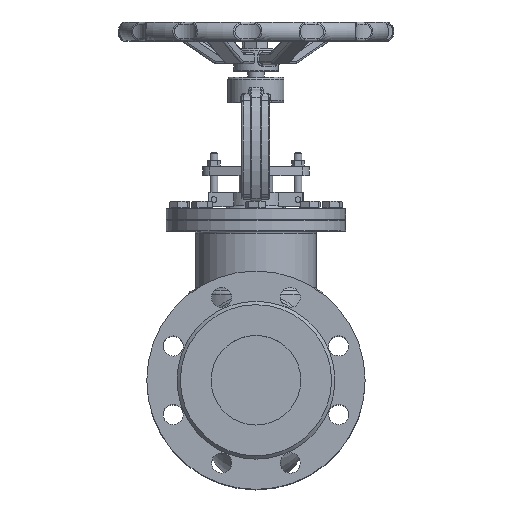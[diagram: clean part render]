
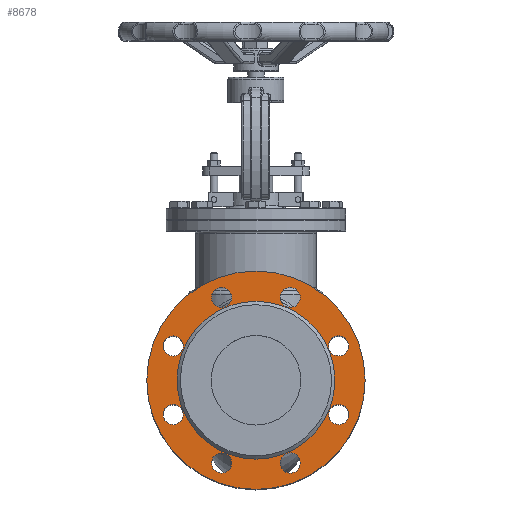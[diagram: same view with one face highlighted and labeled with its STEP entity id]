
A CAD part, top view. The second image highlights one B-rep face of the part: STEP entity #8678.
In plain terms, the highlighted planar face has unit normal (0, 0, 1).
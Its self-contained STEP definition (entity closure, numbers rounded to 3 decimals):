
#8678=ADVANCED_FACE('',(#19119,#19121,#19123,#19125,#19127,#19129,#19131,#19133,
#19135,#19137),#19139,.F.);
#19119=FACE_BOUND('',#19120,.T.);
#19120=EDGE_LOOP('',(#26276));
#19121=FACE_BOUND('',#19122,.T.);
#19122=EDGE_LOOP('',(#26277));
#19123=FACE_BOUND('',#19124,.T.);
#19124=EDGE_LOOP('',(#26278));
#19125=FACE_BOUND('',#19126,.T.);
#19126=EDGE_LOOP('',(#26279));
#19127=FACE_BOUND('',#19128,.T.);
#19128=EDGE_LOOP('',(#26280));
#19129=FACE_BOUND('',#19130,.T.);
#19130=EDGE_LOOP('',(#26281));
#19131=FACE_BOUND('',#19132,.T.);
#19132=EDGE_LOOP('',(#26282));
#19133=FACE_BOUND('',#19134,.T.);
#19134=EDGE_LOOP('',(#26283));
#19135=FACE_BOUND('',#19136,.T.);
#19136=EDGE_LOOP('',(#26284));
#19137=FACE_BOUND('',#19138,.T.);
#19138=EDGE_LOOP('',(#26285));
#19139=PLANE('',#19140);
#19140=AXIS2_PLACEMENT_3D('',#19141,#19142,#19143);
#19141=CARTESIAN_POINT('',(0.,0.,152.));
#19142=DIRECTION('',(0.,0.,-1.));
#19143=DIRECTION('',(0.,1.,0.));
#26276=ORIENTED_EDGE('',*,*,#29315,.T.);
#26277=ORIENTED_EDGE('',*,*,#29316,.T.);
#26278=ORIENTED_EDGE('',*,*,#29317,.T.);
#26279=ORIENTED_EDGE('',*,*,#29318,.T.);
#26280=ORIENTED_EDGE('',*,*,#29319,.T.);
#26281=ORIENTED_EDGE('',*,*,#29592,.F.);
#26282=ORIENTED_EDGE('',*,*,#29320,.T.);
#26283=ORIENTED_EDGE('',*,*,#29321,.T.);
#26284=ORIENTED_EDGE('',*,*,#29322,.T.);
#26285=ORIENTED_EDGE('',*,*,#29323,.T.);
#29315=EDGE_CURVE('',#33354,#33354,#33355,.T.);
#29316=EDGE_CURVE('',#33356,#33356,#33357,.T.);
#29317=EDGE_CURVE('',#33358,#33358,#33359,.T.);
#29318=EDGE_CURVE('',#33360,#33360,#33361,.T.);
#29319=EDGE_CURVE('',#33362,#33362,#33363,.T.);
#29320=EDGE_CURVE('',#33364,#33364,#33365,.T.);
#29321=EDGE_CURVE('',#33366,#33366,#33367,.T.);
#29322=EDGE_CURVE('',#33368,#33368,#33369,.T.);
#29323=EDGE_CURVE('',#33370,#33370,#33371,.T.);
#29592=EDGE_CURVE('',#33808,#33808,#33809,.T.);
#33354=VERTEX_POINT('',#62139);
#33355=CIRCLE('',#62140,97.5);
#33356=VERTEX_POINT('',#62144);
#33357=CIRCLE('',#62145,9.);
#33358=VERTEX_POINT('',#62149);
#33359=CIRCLE('',#62150,9.);
#33360=VERTEX_POINT('',#62154);
#33361=CIRCLE('',#62155,9.);
#33362=VERTEX_POINT('',#62159);
#33363=CIRCLE('',#62160,9.);
#33364=VERTEX_POINT('',#62164);
#33365=CIRCLE('',#62165,9.);
#33366=VERTEX_POINT('',#62169);
#33367=CIRCLE('',#62170,9.);
#33368=VERTEX_POINT('',#62174);
#33369=CIRCLE('',#62175,9.);
#33370=VERTEX_POINT('',#62179);
#33371=CIRCLE('',#62180,9.);
#33808=VERTEX_POINT('',#64710);
#33809=CIRCLE('',#64711,70.5);
#62139=CARTESIAN_POINT('',(0.,97.5,152.));
#62140=AXIS2_PLACEMENT_3D('',#62141,#62142,#62143);
#62141=CARTESIAN_POINT('',(0.,0.,152.));
#62142=DIRECTION('',(0.,0.,1.));
#62143=DIRECTION('',(0.,1.,0.));
#62144=CARTESIAN_POINT('',(67.546,36.979,152.));
#62145=AXIS2_PLACEMENT_3D('',#62146,#62147,#62148);
#62146=CARTESIAN_POINT('',(73.91,30.615,152.));
#62147=DIRECTION('',(0.,0.,-1.));
#62148=DIRECTION('',(-0.707,0.707,0.));
#62149=CARTESIAN_POINT('',(36.979,-67.546,152.));
#62150=AXIS2_PLACEMENT_3D('',#62151,#62152,#62153);
#62151=CARTESIAN_POINT('',(30.615,-73.91,152.));
#62152=DIRECTION('',(0.,0.,-1.));
#62153=DIRECTION('',(0.707,0.707,0.));
#62154=CARTESIAN_POINT('',(-67.546,-36.979,152.));
#62155=AXIS2_PLACEMENT_3D('',#62156,#62157,#62158);
#62156=CARTESIAN_POINT('',(-73.91,-30.615,152.));
#62157=DIRECTION('',(0.,0.,-1.));
#62158=DIRECTION('',(0.707,-0.707,0.));
#62159=CARTESIAN_POINT('',(-36.979,67.546,152.));
#62160=AXIS2_PLACEMENT_3D('',#62161,#62162,#62163);
#62161=CARTESIAN_POINT('',(-30.615,73.91,152.));
#62162=DIRECTION('',(0.,0.,-1.));
#62163=DIRECTION('',(-0.707,-0.707,0.));
#62164=CARTESIAN_POINT('',(21.615,73.91,152.));
#62165=AXIS2_PLACEMENT_3D('',#62166,#62167,#62168);
#62166=CARTESIAN_POINT('',(30.615,73.91,152.));
#62167=DIRECTION('',(0.,0.,-1.));
#62168=DIRECTION('',(-1.,0.,0.));
#62169=CARTESIAN_POINT('',(-73.91,21.615,152.));
#62170=AXIS2_PLACEMENT_3D('',#62171,#62172,#62173);
#62171=CARTESIAN_POINT('',(-73.91,30.615,152.));
#62172=DIRECTION('',(0.,0.,-1.));
#62173=DIRECTION('',(0.,-1.,0.));
#62174=CARTESIAN_POINT('',(-21.615,-73.91,152.));
#62175=AXIS2_PLACEMENT_3D('',#62176,#62177,#62178);
#62176=CARTESIAN_POINT('',(-30.615,-73.91,152.));
#62177=DIRECTION('',(0.,0.,-1.));
#62178=DIRECTION('',(1.,0.,0.));
#62179=CARTESIAN_POINT('',(73.91,-21.615,152.));
#62180=AXIS2_PLACEMENT_3D('',#62181,#62182,#62183);
#62181=CARTESIAN_POINT('',(73.91,-30.615,152.));
#62182=DIRECTION('',(0.,0.,-1.));
#62183=DIRECTION('',(0.,1.,0.));
#64710=CARTESIAN_POINT('',(0.,70.5,152.));
#64711=AXIS2_PLACEMENT_3D('',#64712,#64713,#64714);
#64712=CARTESIAN_POINT('',(0.,0.,152.));
#64713=DIRECTION('',(0.,0.,1.));
#64714=DIRECTION('',(0.,1.,0.));
